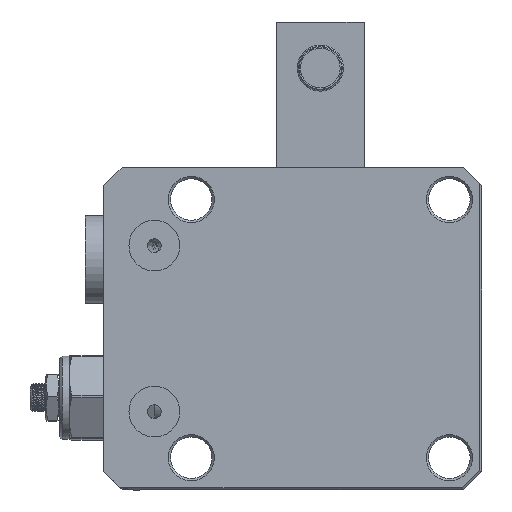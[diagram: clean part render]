
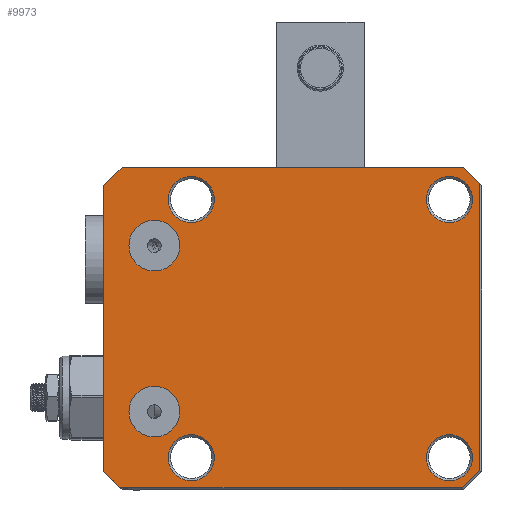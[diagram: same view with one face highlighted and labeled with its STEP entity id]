
A CAD part, front view. The second image highlights one B-rep face of the part: STEP entity #9973.
In plain terms, the highlighted planar face has unit normal (0, -1, 0).
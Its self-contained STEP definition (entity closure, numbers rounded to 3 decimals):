
#728=FACE_BOUND('',#3047,.T.);
#729=FACE_BOUND('',#3048,.T.);
#730=FACE_BOUND('',#3049,.T.);
#731=FACE_BOUND('',#3050,.T.);
#732=FACE_BOUND('',#3051,.T.);
#733=FACE_BOUND('',#3052,.T.);
#814=PLANE('',#10962);
#1014=LINE('',#16748,#1644);
#1016=LINE('',#16752,#1646);
#1020=LINE('',#16760,#1650);
#1022=LINE('',#16764,#1652);
#1023=LINE('',#16767,#1653);
#1055=LINE('',#16843,#1685);
#1057=LINE('',#16847,#1687);
#1058=LINE('',#16848,#1688);
#1644=VECTOR('',#12211,1000.);
#1646=VECTOR('',#12215,1000.);
#1650=VECTOR('',#12225,1000.);
#1652=VECTOR('',#12229,1000.);
#1653=VECTOR('',#12232,1000.);
#1685=VECTOR('',#12298,1000.);
#1687=VECTOR('',#12302,1000.);
#1688=VECTOR('',#12303,1000.);
#2454=FACE_OUTER_BOUND('',#3046,.T.);
#3046=EDGE_LOOP('',(#7212,#7213,#7214,#7215,#7216,#7217,#7218,#7219,#7220));
#3047=EDGE_LOOP('',(#7221));
#3048=EDGE_LOOP('',(#7222));
#3049=EDGE_LOOP('',(#7223));
#3050=EDGE_LOOP('',(#7224));
#3051=EDGE_LOOP('',(#7225));
#3052=EDGE_LOOP('',(#7226));
#3616=CIRCLE('',#10846,5.5);
#3618=CIRCLE('',#10849,5.5);
#3625=CIRCLE('',#10859,5.);
#3628=CIRCLE('',#10863,5.);
#3631=CIRCLE('',#10867,5.);
#3634=CIRCLE('',#10871,5.);
#3659=CIRCLE('',#10941,55.5);
#4354=VERTEX_POINT('',#16329);
#4356=VERTEX_POINT('',#16335);
#4363=VERTEX_POINT('',#16355);
#4366=VERTEX_POINT('',#16363);
#4369=VERTEX_POINT('',#16371);
#4372=VERTEX_POINT('',#16379);
#4418=VERTEX_POINT('',#16694);
#4435=VERTEX_POINT('',#16745);
#4436=VERTEX_POINT('',#16747);
#4437=VERTEX_POINT('',#16751);
#4438=VERTEX_POINT('',#16758);
#4439=VERTEX_POINT('',#16762);
#4440=VERTEX_POINT('',#16766);
#4467=VERTEX_POINT('',#16842);
#4468=VERTEX_POINT('',#16846);
#5366=EDGE_CURVE('',#4354,#4354,#3616,.T.);
#5369=EDGE_CURVE('',#4356,#4356,#3618,.T.);
#5379=EDGE_CURVE('',#4363,#4363,#3625,.T.);
#5383=EDGE_CURVE('',#4366,#4366,#3628,.T.);
#5387=EDGE_CURVE('',#4369,#4369,#3631,.T.);
#5391=EDGE_CURVE('',#4372,#4372,#3634,.T.);
#5486=EDGE_CURVE('',#4436,#4435,#1014,.T.);
#5488=EDGE_CURVE('',#4435,#4437,#1016,.T.);
#5491=EDGE_CURVE('',#4437,#4418,#3659,.T.);
#5493=EDGE_CURVE('',#4418,#4438,#1020,.T.);
#5495=EDGE_CURVE('',#4438,#4439,#1022,.T.);
#5496=EDGE_CURVE('',#4439,#4440,#1023,.T.);
#5534=EDGE_CURVE('',#4467,#4436,#1055,.T.);
#5536=EDGE_CURVE('',#4440,#4468,#1057,.T.);
#5537=EDGE_CURVE('',#4467,#4468,#1058,.T.);
#7212=ORIENTED_EDGE('',*,*,#5496,.T.);
#7213=ORIENTED_EDGE('',*,*,#5536,.T.);
#7214=ORIENTED_EDGE('',*,*,#5537,.F.);
#7215=ORIENTED_EDGE('',*,*,#5534,.T.);
#7216=ORIENTED_EDGE('',*,*,#5486,.T.);
#7217=ORIENTED_EDGE('',*,*,#5488,.T.);
#7218=ORIENTED_EDGE('',*,*,#5491,.T.);
#7219=ORIENTED_EDGE('',*,*,#5493,.T.);
#7220=ORIENTED_EDGE('',*,*,#5495,.T.);
#7221=ORIENTED_EDGE('',*,*,#5366,.F.);
#7222=ORIENTED_EDGE('',*,*,#5369,.F.);
#7223=ORIENTED_EDGE('',*,*,#5379,.T.);
#7224=ORIENTED_EDGE('',*,*,#5383,.T.);
#7225=ORIENTED_EDGE('',*,*,#5387,.T.);
#7226=ORIENTED_EDGE('',*,*,#5391,.T.);
#9973=ADVANCED_FACE('',(#2454,#728,#729,#730,#731,#732,#733),#814,.T.);
#10846=AXIS2_PLACEMENT_3D('',#16331,#11961,#11962);
#10849=AXIS2_PLACEMENT_3D('',#16337,#11968,#11969);
#10859=AXIS2_PLACEMENT_3D('',#16357,#11991,#11992);
#10863=AXIS2_PLACEMENT_3D('',#16365,#12000,#12001);
#10867=AXIS2_PLACEMENT_3D('',#16373,#12009,#12010);
#10871=AXIS2_PLACEMENT_3D('',#16381,#12018,#12019);
#10941=AXIS2_PLACEMENT_3D('',#16756,#12220,#12221);
#10962=AXIS2_PLACEMENT_3D('',#16845,#12300,#12301);
#11961=DIRECTION('center_axis',(0.,-1.,0.));
#11962=DIRECTION('ref_axis',(0.,0.,-1.));
#11968=DIRECTION('center_axis',(0.,-1.,0.));
#11969=DIRECTION('ref_axis',(0.,0.,-1.));
#11991=DIRECTION('center_axis',(0.,1.,0.));
#11992=DIRECTION('ref_axis',(0.,0.,-1.));
#12000=DIRECTION('center_axis',(0.,1.,0.));
#12001=DIRECTION('ref_axis',(1.,0.,0.));
#12009=DIRECTION('center_axis',(0.,1.,0.));
#12010=DIRECTION('ref_axis',(0.,0.,
-1.));
#12018=DIRECTION('center_axis',(0.,1.,0.));
#12019=DIRECTION('ref_axis',(0.,0.,-1.));
#12211=DIRECTION('',(0.,0.,-1.));
#12215=DIRECTION('',(0.707,0.,-0.707));
#12220=DIRECTION('center_axis',(0.,1.,0.));
#12221=DIRECTION('ref_axis',(0.,0.,-1.));
#12225=DIRECTION('',(1.,0.,0.));
#12229=DIRECTION('',(0.707,0.,0.707));
#12232=DIRECTION('',(0.,0.,1.));
#12298=DIRECTION('',(-0.707,0.,-0.707));
#12300=DIRECTION('center_axis',(0.,-1.,0.));
#12301=DIRECTION('ref_axis',(0.,0.,-1.));
#12302=DIRECTION('',(-0.707,0.,0.707));
#12303=DIRECTION('',(1.,0.,0.));
#16329=CARTESIAN_POINT('',(419.71,103.516,-12.5));
#16331=CARTESIAN_POINT('Origin',(419.71,103.516,-18.));
#16335=CARTESIAN_POINT('',(419.71,103.516,23.5));
#16337=CARTESIAN_POINT('Origin',(419.71,103.516,18.));
#16355=CARTESIAN_POINT('',(427.71,103.516,33.));
#16357=CARTESIAN_POINT('Origin',(427.71,103.516,28.));
#16363=CARTESIAN_POINT('',(478.71,103.516,28.));
#16365=CARTESIAN_POINT('Origin',(483.71,103.516,28.));
#16371=CARTESIAN_POINT('',(483.71,103.516,-23.));
#16373=CARTESIAN_POINT('Origin',(483.71,103.516,-28.));
#16379=CARTESIAN_POINT('',(427.71,103.516,-23.));
#16381=CARTESIAN_POINT('Origin',(427.71,103.516,-28.));
#16694=CARTESIAN_POINT('',(412.236,103.516,-34.5));
#16745=CARTESIAN_POINT('',(408.71,103.516,-31.));
#16747=CARTESIAN_POINT('',(408.71,103.516,31.));
#16748=CARTESIAN_POINT('',(408.71,103.516,0.));
#16751=CARTESIAN_POINT('',(412.337,103.516,-34.627));
#16752=CARTESIAN_POINT('',(408.71,103.516,-31.));
#16756=CARTESIAN_POINT('Origin',(455.71,103.516,0.));
#16758=CARTESIAN_POINT('',(486.503,103.516,-34.5));
#16760=CARTESIAN_POINT('',(0.,103.516,-34.5));
#16762=CARTESIAN_POINT('',(490.21,103.516,-30.793));
#16764=CARTESIAN_POINT('',(486.503,103.516,-34.5));
#16766=CARTESIAN_POINT('',(490.21,103.516,31.5));
#16767=CARTESIAN_POINT('',(490.21,103.516,0.));
#16842=CARTESIAN_POINT('',(412.71,103.516,35.));
#16843=CARTESIAN_POINT('',(412.71,103.516,35.));
#16845=CARTESIAN_POINT('Origin',(0.,103.516,
0.));
#16846=CARTESIAN_POINT('',(486.71,103.516,35.));
#16847=CARTESIAN_POINT('',(260.855,103.516,260.855));
#16848=CARTESIAN_POINT('',(0.,103.516,35.));
